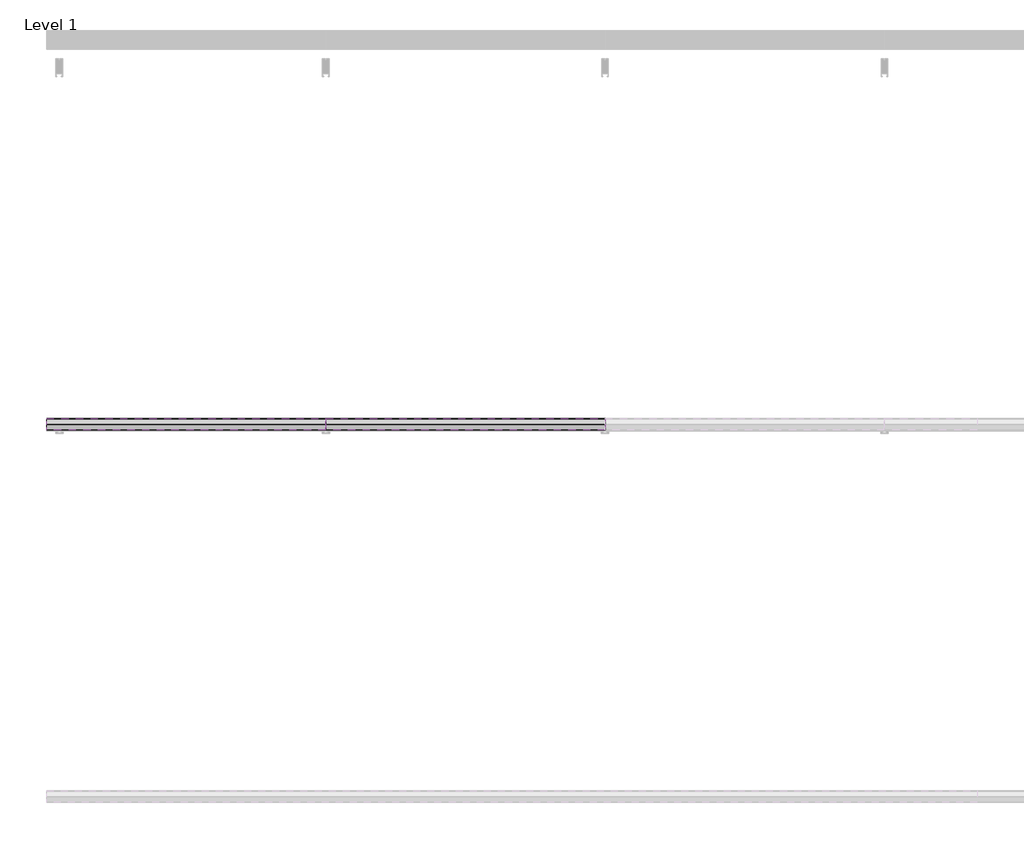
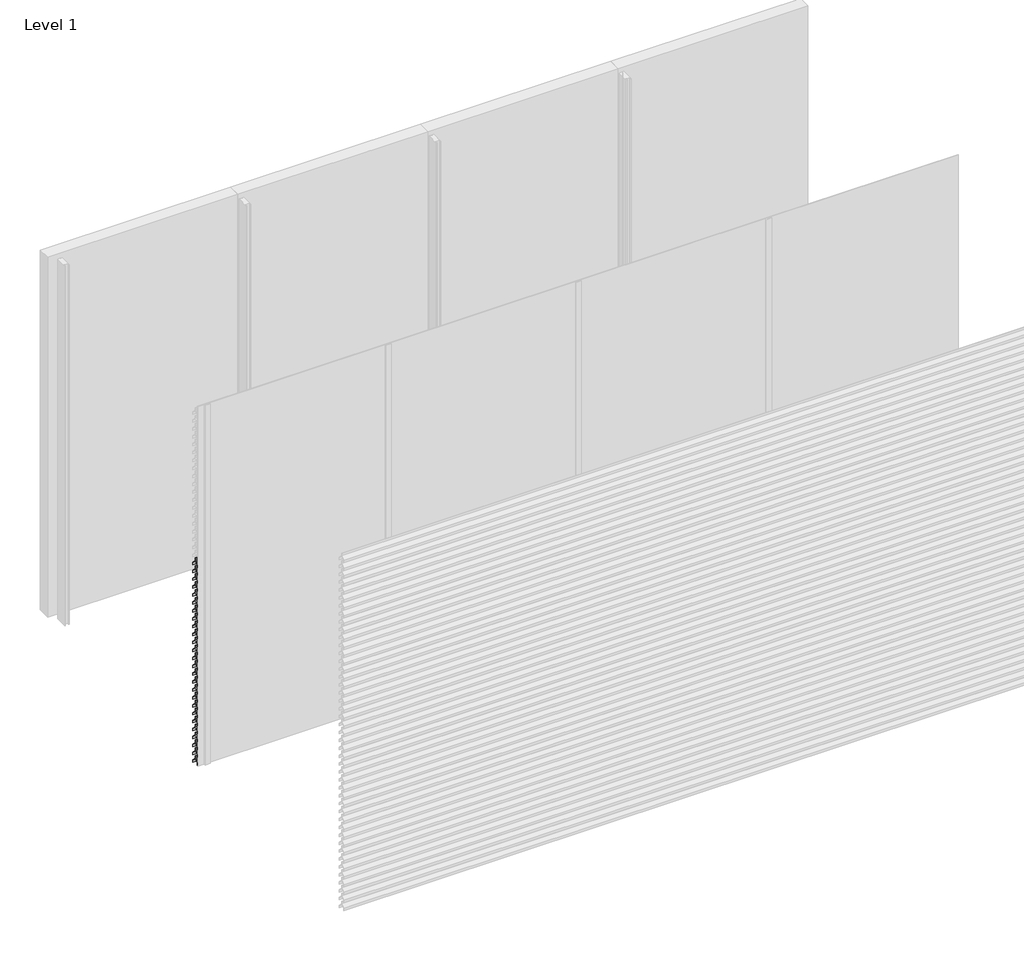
# One storey, part 20 of 35: 70 proxies.
"""IFC4 building model written with IfcOpenShell, lengths in millimetres."""

from ifc_helpers import new_model, si_unit, frame, origin, place, context, project, spatial, polyline, outline, extrude, element, save

model = new_model("IFC4")

# Units and contexts
model_context = context("Model", 3, world=origin())
ifc_project = project(units=[si_unit("LENGTHUNIT", "METRE", prefix="MILLI")], contexts=[model_context])

# Site, building, storey
site = spatial("IfcSite", under=ifc_project)
building = spatial("IfcBuilding", under=site)
storey = spatial("IfcBuildingStorey", under=building, Name="Level 1", Elevation=0.0)

# Proxies
placement = place(None, origin())
element("IfcBuildingElementProxy", 1, Name="Wall Sweeps", at=placement, inside=storey, context=model_context, shape_type="SweptSolid", body=[
    extrude(outline(polyline([(-23936.0, 1662.0), (-23936.0, 1642.0), (-23937.25, 1642.0), (-23937.25, 1661.4342979), (-23968.1138939, 1694.531772), (-23996.7, 1674.4392868), (-23996.7, 1655.6629874), (-23998.0, 1654.8506572), (-23998.0, 1675.1145472), (-23968.537525, 1695.823011), (-23968.537525, 1716.0), (-23967.1772624, 1716.0), (-23967.1772624, 1695.4335207), (-23936.0, 1662.0)])), frame((0.0, 0.0, 0.0), z_axis=(1.0, 0.0, 0.0), x_axis=(0.0, 1.0, 0.0)), (0.0, 0.0, 1.0), 1500.0),
])
element("IfcBuildingElementProxy", 2, Name="Wall Sweeps", at=placement, inside=storey, context=model_context, shape_type="SweptSolid", body=[
    extrude(outline(polyline([(-23936.0, 1596.0), (-23936.0, 1576.0), (-23937.25, 1576.0), (-23937.25, 1595.4342979), (-23968.1138939, 1628.531772), (-23996.7, 1608.4392868), (-23996.7, 1589.6629874), (-23998.0, 1588.8506572), (-23998.0, 1609.1145472), (-23968.537525, 1629.823011), (-23968.537525, 1650.0), (-23967.1772624, 1650.0), (-23967.1772624, 1629.4335207), (-23936.0, 1596.0)])), frame((0.0, 0.0, 0.0), z_axis=(1.0, 0.0, 0.0), x_axis=(0.0, 1.0, 0.0)), (0.0, 0.0, 1.0), 1500.0),
])
element("IfcBuildingElementProxy", 3, Name="Wall Sweeps", at=placement, inside=storey, context=model_context, shape_type="SweptSolid", body=[
    extrude(outline(polyline([(-23936.0, 1530.0), (-23936.0, 1510.0), (-23937.25, 1510.0), (-23937.25, 1529.4342979), (-23968.1138939, 1562.531772), (-23996.7, 1542.4392868), (-23996.7, 1523.6629874), (-23998.0, 1522.8506572), (-23998.0, 1543.1145472), (-23968.537525, 1563.823011), (-23968.537525, 1584.0), (-23967.1772624, 1584.0), (-23967.1772624, 1563.4335207), (-23936.0, 1530.0)])), frame((0.0, 0.0, 0.0), z_axis=(1.0, 0.0, 0.0), x_axis=(0.0, 1.0, 0.0)), (0.0, 0.0, 1.0), 1500.0),
])
element("IfcBuildingElementProxy", 4, Name="Wall Sweeps", at=placement, inside=storey, context=model_context, shape_type="SweptSolid", body=[
    extrude(outline(polyline([(-23936.0, 1464.0), (-23936.0, 1444.0), (-23937.25, 1444.0), (-23937.25, 1463.4342979), (-23968.1138939, 1496.531772), (-23996.7, 1476.4392868), (-23996.7, 1457.6629874), (-23998.0, 1456.8506572), (-23998.0, 1477.1145472), (-23968.537525, 1497.823011), (-23968.537525, 1518.0), (-23967.1772624, 1518.0), (-23967.1772624, 1497.4335207), (-23936.0, 1464.0)])), frame((0.0, 0.0, 0.0), z_axis=(1.0, 0.0, 0.0), x_axis=(0.0, 1.0, 0.0)), (0.0, 0.0, 1.0), 1500.0),
])
element("IfcBuildingElementProxy", 5, Name="Wall Sweeps", at=placement, inside=storey, context=model_context, shape_type="SweptSolid", body=[
    extrude(outline(polyline([(-23936.0, 1398.0), (-23936.0, 1378.0), (-23937.25, 1378.0), (-23937.25, 1397.4342979), (-23968.1138939, 1430.531772), (-23996.7, 1410.4392868), (-23996.7, 1391.6629874), (-23998.0, 1390.8506572), (-23998.0, 1411.1145472), (-23968.537525, 1431.823011), (-23968.537525, 1452.0), (-23967.1772624, 1452.0), (-23967.1772624, 1431.4335207), (-23936.0, 1398.0)])), frame((0.0, 0.0, 0.0), z_axis=(1.0, 0.0, 0.0), x_axis=(0.0, 1.0, 0.0)), (0.0, 0.0, 1.0), 1500.0),
])
element("IfcBuildingElementProxy", 6, Name="Wall Sweeps", at=placement, inside=storey, context=model_context, shape_type="SweptSolid", body=[
    extrude(outline(polyline([(-23936.0, 1332.0), (-23936.0, 1312.0), (-23937.25, 1312.0), (-23937.25, 1331.4342979), (-23968.1138939, 1364.531772), (-23996.7, 1344.4392868), (-23996.7, 1325.6629874), (-23998.0, 1324.8506572), (-23998.0, 1345.1145472), (-23968.537525, 1365.823011), (-23968.537525, 1386.0), (-23967.1772624, 1386.0), (-23967.1772624, 1365.4335207), (-23936.0, 1332.0)])), frame((0.0, 0.0, 0.0), z_axis=(1.0, 0.0, 0.0), x_axis=(0.0, 1.0, 0.0)), (0.0, 0.0, 1.0), 1500.0),
])
element("IfcBuildingElementProxy", 7, Name="Wall Sweeps", at=placement, inside=storey, context=model_context, shape_type="SweptSolid", body=[
    extrude(outline(polyline([(-23936.0, 1266.0), (-23936.0, 1246.0), (-23937.25, 1246.0), (-23937.25, 1265.4342979), (-23968.1138939, 1298.531772), (-23996.7, 1278.4392868), (-23996.7, 1259.6629874), (-23998.0, 1258.8506572), (-23998.0, 1279.1145472), (-23968.537525, 1299.823011), (-23968.537525, 1320.0), (-23967.1772624, 1320.0), (-23967.1772624, 1299.4335207), (-23936.0, 1266.0)])), frame((0.0, 0.0, 0.0), z_axis=(1.0, 0.0, 0.0), x_axis=(0.0, 1.0, 0.0)), (0.0, 0.0, 1.0), 1500.0),
])
element("IfcBuildingElementProxy", 8, Name="Wall Sweeps", at=placement, inside=storey, context=model_context, shape_type="SweptSolid", body=[
    extrude(outline(polyline([(-23936.0, 1200.0), (-23936.0, 1180.0), (-23937.25, 1180.0), (-23937.25, 1199.4342979), (-23968.1138939, 1232.531772), (-23996.7, 1212.4392868), (-23996.7, 1193.6629874), (-23998.0, 1192.8506572), (-23998.0, 1213.1145472), (-23968.537525, 1233.823011), (-23968.537525, 1254.0), (-23967.1772624, 1254.0), (-23967.1772624, 1233.4335207), (-23936.0, 1200.0)])), frame((0.0, 0.0, 0.0), z_axis=(1.0, 0.0, 0.0), x_axis=(0.0, 1.0, 0.0)), (0.0, 0.0, 1.0), 1500.0),
])
element("IfcBuildingElementProxy", 9, Name="Wall Sweeps", at=placement, inside=storey, context=model_context, shape_type="SweptSolid", body=[
    extrude(outline(polyline([(-23936.0, 1134.0), (-23936.0, 1114.0), (-23937.25, 1114.0), (-23937.25, 1133.4342979), (-23968.1138939, 1166.531772), (-23996.7, 1146.4392868), (-23996.7, 1127.6629874), (-23998.0, 1126.8506572), (-23998.0, 1147.1145472), (-23968.537525, 1167.823011), (-23968.537525, 1188.0), (-23967.1772624, 1188.0), (-23967.1772624, 1167.4335207), (-23936.0, 1134.0)])), frame((0.0, 0.0, 0.0), z_axis=(1.0, 0.0, 0.0), x_axis=(0.0, 1.0, 0.0)), (0.0, 0.0, 1.0), 1500.0),
])
element("IfcBuildingElementProxy", 10, Name="Wall Sweeps", at=placement, inside=storey, context=model_context, shape_type="SweptSolid", body=[
    extrude(outline(polyline([(-23936.0, 1068.0), (-23936.0, 1048.0), (-23937.25, 1048.0), (-23937.25, 1067.4342979), (-23968.1138939, 1100.531772), (-23996.7, 1080.4392868), (-23996.7, 1061.6629874), (-23998.0, 1060.8506572), (-23998.0, 1081.1145472), (-23968.537525, 1101.823011), (-23968.537525, 1122.0), (-23967.1772624, 1122.0), (-23967.1772624, 1101.4335207), (-23936.0, 1068.0)])), frame((0.0, 0.0, 0.0), z_axis=(1.0, 0.0, 0.0), x_axis=(0.0, 1.0, 0.0)), (0.0, 0.0, 1.0), 1500.0),
])
element("IfcBuildingElementProxy", 11, Name="Wall Sweeps", at=placement, inside=storey, context=model_context, shape_type="SweptSolid", body=[
    extrude(outline(polyline([(-23936.0, 1002.0), (-23936.0, 982.0), (-23937.25, 982.0), (-23937.25, 1001.4342979), (-23968.1138939, 1034.531772), (-23996.7, 1014.4392868), (-23996.7, 995.6629874), (-23998.0, 994.8506572), (-23998.0, 1015.1145472), (-23968.537525, 1035.823011), (-23968.537525, 1056.0), (-23967.1772624, 1056.0), (-23967.1772624, 1035.4335207), (-23936.0, 1002.0)])), frame((0.0, 0.0, 0.0), z_axis=(1.0, 0.0, 0.0), x_axis=(0.0, 1.0, 0.0)), (0.0, 0.0, 1.0), 1500.0),
])
element("IfcBuildingElementProxy", 12, Name="Wall Sweeps", at=placement, inside=storey, context=model_context, shape_type="SweptSolid", body=[
    extrude(outline(polyline([(-23936.0, 936.0), (-23936.0, 916.0), (-23937.25, 916.0), (-23937.25, 935.4342979), (-23968.1138939, 968.531772), (-23996.7, 948.4392868), (-23996.7, 929.6629874), (-23998.0, 928.8506572), (-23998.0, 949.1145472), (-23968.537525, 969.823011), (-23968.537525, 990.0), (-23967.1772624, 990.0), (-23967.1772624, 969.4335207), (-23936.0, 936.0)])), frame((0.0, 0.0, 0.0), z_axis=(1.0, 0.0, 0.0), x_axis=(0.0, 1.0, 0.0)), (0.0, 0.0, 1.0), 1500.0),
])
element("IfcBuildingElementProxy", 13, Name="Wall Sweeps", at=placement, inside=storey, context=model_context, shape_type="SweptSolid", body=[
    extrude(outline(polyline([(-23936.0, 870.0), (-23936.0, 850.0), (-23937.25, 850.0), (-23937.25, 869.4342979), (-23968.1138939, 902.531772), (-23996.7, 882.4392868), (-23996.7, 863.6629874), (-23998.0, 862.8506572), (-23998.0, 883.1145472), (-23968.537525, 903.823011), (-23968.537525, 924.0), (-23967.1772624, 924.0), (-23967.1772624, 903.4335207), (-23936.0, 870.0)])), frame((0.0, 0.0, 0.0), z_axis=(1.0, 0.0, 0.0), x_axis=(0.0, 1.0, 0.0)), (0.0, 0.0, 1.0), 1500.0),
])
element("IfcBuildingElementProxy", 14, Name="Wall Sweeps", at=placement, inside=storey, context=model_context, shape_type="SweptSolid", body=[
    extrude(outline(polyline([(-23936.0, 804.0), (-23936.0, 784.0), (-23937.25, 784.0), (-23937.25, 803.4342979), (-23968.1138939, 836.531772), (-23996.7, 816.4392868), (-23996.7, 797.6629874), (-23998.0, 796.8506572), (-23998.0, 817.1145472), (-23968.537525, 837.823011), (-23968.537525, 858.0), (-23967.1772624, 858.0), (-23967.1772624, 837.4335207), (-23936.0, 804.0)])), frame((0.0, 0.0, 0.0), z_axis=(1.0, 0.0, 0.0), x_axis=(0.0, 1.0, 0.0)), (0.0, 0.0, 1.0), 1500.0),
])
element("IfcBuildingElementProxy", 15, Name="Wall Sweeps", at=placement, inside=storey, context=model_context, shape_type="SweptSolid", body=[
    extrude(outline(polyline([(-23936.0, 738.0), (-23936.0, 718.0), (-23937.25, 718.0), (-23937.25, 737.4342979), (-23968.1138939, 770.531772), (-23996.7, 750.4392868), (-23996.7, 731.6629874), (-23998.0, 730.8506572), (-23998.0, 751.1145472), (-23968.537525, 771.823011), (-23968.537525, 792.0), (-23967.1772624, 792.0), (-23967.1772624, 771.4335207), (-23936.0, 738.0)])), frame((0.0, 0.0, 0.0), z_axis=(1.0, 0.0, 0.0), x_axis=(0.0, 1.0, 0.0)), (0.0, 0.0, 1.0), 1500.0),
])
element("IfcBuildingElementProxy", 16, Name="Wall Sweeps", at=placement, inside=storey, context=model_context, shape_type="SweptSolid", body=[
    extrude(outline(polyline([(-23936.0, 672.0), (-23936.0, 652.0), (-23937.25, 652.0), (-23937.25, 671.4342979), (-23968.1138939, 704.531772), (-23996.7, 684.4392868), (-23996.7, 665.6629874), (-23998.0, 664.8506572), (-23998.0, 685.1145472), (-23968.537525, 705.823011), (-23968.537525, 726.0), (-23967.1772624, 726.0), (-23967.1772624, 705.4335207), (-23936.0, 672.0)])), frame((0.0, 0.0, 0.0), z_axis=(1.0, 0.0, 0.0), x_axis=(0.0, 1.0, 0.0)), (0.0, 0.0, 1.0), 1500.0),
])
element("IfcBuildingElementProxy", 17, Name="Wall Sweeps", at=placement, inside=storey, context=model_context, shape_type="SweptSolid", body=[
    extrude(outline(polyline([(-23936.0, 606.0), (-23936.0, 586.0), (-23937.25, 586.0), (-23937.25, 605.4342979), (-23968.1138939, 638.531772), (-23996.7, 618.4392868), (-23996.7, 599.6629874), (-23998.0, 598.8506572), (-23998.0, 619.1145472), (-23968.537525, 639.823011), (-23968.537525, 660.0), (-23967.1772624, 660.0), (-23967.1772624, 639.4335207), (-23936.0, 606.0)])), frame((0.0, 0.0, 0.0), z_axis=(1.0, 0.0, 0.0), x_axis=(0.0, 1.0, 0.0)), (0.0, 0.0, 1.0), 1500.0),
])
element("IfcBuildingElementProxy", 18, Name="Wall Sweeps", at=placement, inside=storey, context=model_context, shape_type="SweptSolid", body=[
    extrude(outline(polyline([(-23936.0, 540.0), (-23936.0, 520.0), (-23937.25, 520.0), (-23937.25, 539.4342979), (-23968.1138939, 572.531772), (-23996.7, 552.4392868), (-23996.7, 533.6629874), (-23998.0, 532.8506572), (-23998.0, 553.1145472), (-23968.537525, 573.823011), (-23968.537525, 594.0), (-23967.1772624, 594.0), (-23967.1772624, 573.4335207), (-23936.0, 540.0)])), frame((0.0, 0.0, 0.0), z_axis=(1.0, 0.0, 0.0), x_axis=(0.0, 1.0, 0.0)), (0.0, 0.0, 1.0), 1500.0),
])
element("IfcBuildingElementProxy", 19, Name="Wall Sweeps", at=placement, inside=storey, context=model_context, shape_type="SweptSolid", body=[
    extrude(outline(polyline([(-23936.0, 474.0), (-23936.0, 454.0), (-23937.25, 454.0), (-23937.25, 473.4342979), (-23968.1138939, 506.531772), (-23996.7, 486.4392868), (-23996.7, 467.6629874), (-23998.0, 466.8506572), (-23998.0, 487.1145472), (-23968.537525, 507.823011), (-23968.537525, 528.0), (-23967.1772624, 528.0), (-23967.1772624, 507.4335207), (-23936.0, 474.0)])), frame((0.0, 0.0, 0.0), z_axis=(1.0, 0.0, 0.0), x_axis=(0.0, 1.0, 0.0)), (0.0, 0.0, 1.0), 1500.0),
])
element("IfcBuildingElementProxy", 20, Name="Wall Sweeps", at=placement, inside=storey, context=model_context, shape_type="SweptSolid", body=[
    extrude(outline(polyline([(-23936.0, 408.0), (-23936.0, 388.0), (-23937.25, 388.0), (-23937.25, 407.4342979), (-23968.1138939, 440.531772), (-23996.7, 420.4392868), (-23996.7, 401.6629874), (-23998.0, 400.8506572), (-23998.0, 421.1145472), (-23968.537525, 441.823011), (-23968.537525, 462.0), (-23967.1772624, 462.0), (-23967.1772624, 441.4335207), (-23936.0, 408.0)])), frame((0.0, 0.0, 0.0), z_axis=(1.0, 0.0, 0.0), x_axis=(0.0, 1.0, 0.0)), (0.0, 0.0, 1.0), 1500.0),
])
element("IfcBuildingElementProxy", 21, Name="Wall Sweeps", at=placement, inside=storey, context=model_context, shape_type="SweptSolid", body=[
    extrude(outline(polyline([(-23936.0, 342.0), (-23936.0, 322.0), (-23937.25, 322.0), (-23937.25, 341.4342979), (-23968.1138939, 374.531772), (-23996.7, 354.4392868), (-23996.7, 335.6629874), (-23998.0, 334.8506572), (-23998.0, 355.1145472), (-23968.537525, 375.823011), (-23968.537525, 396.0), (-23967.1772624, 396.0), (-23967.1772624, 375.4335207), (-23936.0, 342.0)])), frame((0.0, 0.0, 0.0), z_axis=(1.0, 0.0, 0.0), x_axis=(0.0, 1.0, 0.0)), (0.0, 0.0, 1.0), 1500.0),
])
element("IfcBuildingElementProxy", 22, Name="Wall Sweeps", at=placement, inside=storey, context=model_context, shape_type="SweptSolid", body=[
    extrude(outline(polyline([(-23936.0, 276.0), (-23936.0, 256.0), (-23937.25, 256.0), (-23937.25, 275.4342979), (-23968.1138939, 308.531772), (-23996.7, 288.4392868), (-23996.7, 269.6629874), (-23998.0, 268.8506572), (-23998.0, 289.1145472), (-23968.537525, 309.823011), (-23968.537525, 330.0), (-23967.1772624, 330.0), (-23967.1772624, 309.4335207), (-23936.0, 276.0)])), frame((0.0, 0.0, 0.0), z_axis=(1.0, 0.0, 0.0), x_axis=(0.0, 1.0, 0.0)), (0.0, 0.0, 1.0), 1500.0),
])
element("IfcBuildingElementProxy", 23, Name="Wall Sweeps", at=placement, inside=storey, context=model_context, shape_type="SweptSolid", body=[
    extrude(outline(polyline([(-23936.0, 210.0), (-23936.0, 190.0), (-23937.25, 190.0), (-23937.25, 209.4342979), (-23968.1138939, 242.531772), (-23996.7, 222.4392868), (-23996.7, 203.6629874), (-23998.0, 202.8506572), (-23998.0, 223.1145472), (-23968.537525, 243.823011), (-23968.537525, 264.0), (-23967.1772624, 264.0), (-23967.1772624, 243.4335207), (-23936.0, 210.0)])), frame((0.0, 0.0, 0.0), z_axis=(1.0, 0.0, 0.0), x_axis=(0.0, 1.0, 0.0)), (0.0, 0.0, 1.0), 1500.0),
])
element("IfcBuildingElementProxy", 24, Name="Wall Sweeps", at=placement, inside=storey, context=model_context, shape_type="SweptSolid", body=[
    extrude(outline(polyline([(-23936.0, 144.0), (-23936.0, 124.0), (-23937.25, 124.0), (-23937.25, 143.4342979), (-23968.1138939, 176.531772), (-23996.7, 156.4392868), (-23996.7, 137.6629874), (-23998.0, 136.8506572), (-23998.0, 157.1145472), (-23968.537525, 177.823011), (-23968.537525, 198.0), (-23967.1772624, 198.0), (-23967.1772624, 177.4335207), (-23936.0, 144.0)])), frame((0.0, 0.0, 0.0), z_axis=(1.0, 0.0, 0.0), x_axis=(0.0, 1.0, 0.0)), (0.0, 0.0, 1.0), 1500.0),
])
element("IfcBuildingElementProxy", 25, Name="Wall Sweeps", at=placement, inside=storey, context=model_context, shape_type="SweptSolid", body=[
    extrude(outline(polyline([(-23936.0, 78.0), (-23936.0, 58.0), (-23937.25, 58.0), (-23937.25, 77.4342979), (-23968.1138939, 110.531772), (-23996.7, 90.4392868), (-23996.7, 71.6629874), (-23998.0, 70.8506572), (-23998.0, 91.1145472), (-23968.537525, 111.823011), (-23968.537525, 132.0), (-23967.1772624, 132.0), (-23967.1772624, 111.4335207), (-23936.0, 78.0)])), frame((0.0, 0.0, 0.0), z_axis=(1.0, 0.0, 0.0), x_axis=(0.0, 1.0, 0.0)), (0.0, 0.0, 1.0), 1500.0),
])
element("IfcBuildingElementProxy", 26, Name="Wall Sweeps", at=placement, inside=storey, context=model_context, shape_type="SweptSolid", body=[
    extrude(outline(polyline([(-23936.0, 12.0), (-23936.0, -8.0), (-23937.25, -8.0), (-23937.25, 11.4342979), (-23968.1138939, 44.531772), (-23996.7, 24.4392868), (-23996.7, 5.6629874), (-23998.0, 4.8506572), (-23998.0, 25.1145472), (-23968.537525, 45.823011), (-23968.537525, 66.0), (-23967.1772624, 66.0), (-23967.1772624, 45.4335207), (-23936.0, 12.0)])), frame((0.0, 0.0, 0.0), z_axis=(1.0, 0.0, 0.0), x_axis=(0.0, 1.0, 0.0)), (0.0, 0.0, 1.0), 1500.0),
])
element("IfcBuildingElementProxy", 27, Name="Wall Sweeps", at=placement, inside=storey, context=model_context, shape_type="SweptSolid", body=[
    extrude(outline(polyline([(-23936.0, 2916.0), (-23936.0, 2896.0), (-23937.25, 2896.0), (-23937.25, 2915.4342979), (-23968.1138939, 2948.531772), (-23996.7, 2928.4392868), (-23996.7, 2909.6629874), (-23998.0, 2908.8506572), (-23998.0, 2929.1145472), (-23968.537525, 2949.823011), (-23968.537525, 2970.0), (-23967.1772624, 2970.0), (-23967.1772624, 2949.4335207), (-23936.0, 2916.0)])), frame((1500.0, 0.0, 0.0), z_axis=(1.0, 0.0, 0.0), x_axis=(0.0, 1.0, 0.0)), (0.0, 0.0, 1.0), 1500.0),
])
element("IfcBuildingElementProxy", 28, Name="Wall Sweeps", at=placement, inside=storey, context=model_context, shape_type="SweptSolid", body=[
    extrude(outline(polyline([(-23936.0, 2850.0), (-23936.0, 2830.0), (-23937.25, 2830.0), (-23937.25, 2849.4342979), (-23968.1138939, 2882.531772), (-23996.7, 2862.4392868), (-23996.7, 2843.6629874), (-23998.0, 2842.8506572), (-23998.0, 2863.1145472), (-23968.537525, 2883.823011), (-23968.537525, 2904.0), (-23967.1772624, 2904.0), (-23967.1772624, 2883.4335207), (-23936.0, 2850.0)])), frame((1500.0, 0.0, 0.0), z_axis=(1.0, 0.0, 0.0), x_axis=(0.0, 1.0, 0.0)), (0.0, 0.0, 1.0), 1500.0),
])
element("IfcBuildingElementProxy", 29, Name="Wall Sweeps", at=placement, inside=storey, context=model_context, shape_type="SweptSolid", body=[
    extrude(outline(polyline([(-23936.0, 2784.0), (-23936.0, 2764.0), (-23937.25, 2764.0), (-23937.25, 2783.4342979), (-23968.1138939, 2816.531772), (-23996.7, 2796.4392868), (-23996.7, 2777.6629874), (-23998.0, 2776.8506572), (-23998.0, 2797.1145472), (-23968.537525, 2817.823011), (-23968.537525, 2838.0), (-23967.1772624, 2838.0), (-23967.1772624, 2817.4335207), (-23936.0, 2784.0)])), frame((1500.0, 0.0, 0.0), z_axis=(1.0, 0.0, 0.0), x_axis=(0.0, 1.0, 0.0)), (0.0, 0.0, 1.0), 1500.0),
])
element("IfcBuildingElementProxy", 30, Name="Wall Sweeps", at=placement, inside=storey, context=model_context, shape_type="SweptSolid", body=[
    extrude(outline(polyline([(-23936.0, 2718.0), (-23936.0, 2698.0), (-23937.25, 2698.0), (-23937.25, 2717.4342979), (-23968.1138939, 2750.531772), (-23996.7, 2730.4392868), (-23996.7, 2711.6629874), (-23998.0, 2710.8506572), (-23998.0, 2731.1145472), (-23968.537525, 2751.823011), (-23968.537525, 2772.0), (-23967.1772624, 2772.0), (-23967.1772624, 2751.4335207), (-23936.0, 2718.0)])), frame((1500.0, 0.0, 0.0), z_axis=(1.0, 0.0, 0.0), x_axis=(0.0, 1.0, 0.0)), (0.0, 0.0, 1.0), 1500.0),
])
element("IfcBuildingElementProxy", 31, Name="Wall Sweeps", at=placement, inside=storey, context=model_context, shape_type="SweptSolid", body=[
    extrude(outline(polyline([(-23936.0, 2652.0), (-23936.0, 2632.0), (-23937.25, 2632.0), (-23937.25, 2651.4342979), (-23968.1138939, 2684.531772), (-23996.7, 2664.4392868), (-23996.7, 2645.6629874), (-23998.0, 2644.8506572), (-23998.0, 2665.1145472), (-23968.537525, 2685.823011), (-23968.537525, 2706.0), (-23967.1772624, 2706.0), (-23967.1772624, 2685.4335207), (-23936.0, 2652.0)])), frame((1500.0, 0.0, 0.0), z_axis=(1.0, 0.0, 0.0), x_axis=(0.0, 1.0, 0.0)), (0.0, 0.0, 1.0), 1500.0),
])
element("IfcBuildingElementProxy", 32, Name="Wall Sweeps", at=placement, inside=storey, context=model_context, shape_type="SweptSolid", body=[
    extrude(outline(polyline([(-23936.0, 2586.0), (-23936.0, 2566.0), (-23937.25, 2566.0), (-23937.25, 2585.4342979), (-23968.1138939, 2618.531772), (-23996.7, 2598.4392868), (-23996.7, 2579.6629874), (-23998.0, 2578.8506572), (-23998.0, 2599.1145472), (-23968.537525, 2619.823011), (-23968.537525, 2640.0), (-23967.1772624, 2640.0), (-23967.1772624, 2619.4335207), (-23936.0, 2586.0)])), frame((1500.0, 0.0, 0.0), z_axis=(1.0, 0.0, 0.0), x_axis=(0.0, 1.0, 0.0)), (0.0, 0.0, 1.0), 1500.0),
])
element("IfcBuildingElementProxy", 33, Name="Wall Sweeps", at=placement, inside=storey, context=model_context, shape_type="SweptSolid", body=[
    extrude(outline(polyline([(-23936.0, 2520.0), (-23936.0, 2500.0), (-23937.25, 2500.0), (-23937.25, 2519.4342979), (-23968.1138939, 2552.531772), (-23996.7, 2532.4392868), (-23996.7, 2513.6629874), (-23998.0, 2512.8506572), (-23998.0, 2533.1145472), (-23968.537525, 2553.823011), (-23968.537525, 2574.0), (-23967.1772624, 2574.0), (-23967.1772624, 2553.4335207), (-23936.0, 2520.0)])), frame((1500.0, 0.0, 0.0), z_axis=(1.0, 0.0, 0.0), x_axis=(0.0, 1.0, 0.0)), (0.0, 0.0, 1.0), 1500.0),
])
element("IfcBuildingElementProxy", 34, Name="Wall Sweeps", at=placement, inside=storey, context=model_context, shape_type="SweptSolid", body=[
    extrude(outline(polyline([(-23936.0, 2454.0), (-23936.0, 2434.0), (-23937.25, 2434.0), (-23937.25, 2453.4342979), (-23968.1138939, 2486.531772), (-23996.7, 2466.4392868), (-23996.7, 2447.6629874), (-23998.0, 2446.8506572), (-23998.0, 2467.1145472), (-23968.537525, 2487.823011), (-23968.537525, 2508.0), (-23967.1772624, 2508.0), (-23967.1772624, 2487.4335207), (-23936.0, 2454.0)])), frame((1500.0, 0.0, 0.0), z_axis=(1.0, 0.0, 0.0), x_axis=(0.0, 1.0, 0.0)), (0.0, 0.0, 1.0), 1500.0),
])
element("IfcBuildingElementProxy", 35, Name="Wall Sweeps", at=placement, inside=storey, context=model_context, shape_type="SweptSolid", body=[
    extrude(outline(polyline([(-23936.0, 2388.0), (-23936.0, 2368.0), (-23937.25, 2368.0), (-23937.25, 2387.4342979), (-23968.1138939, 2420.531772), (-23996.7, 2400.4392868), (-23996.7, 2381.6629874), (-23998.0, 2380.8506572), (-23998.0, 2401.1145472), (-23968.537525, 2421.823011), (-23968.537525, 2442.0), (-23967.1772624, 2442.0), (-23967.1772624, 2421.4335207), (-23936.0, 2388.0)])), frame((1500.0, 0.0, 0.0), z_axis=(1.0, 0.0, 0.0), x_axis=(0.0, 1.0, 0.0)), (0.0, 0.0, 1.0), 1500.0),
])
element("IfcBuildingElementProxy", 36, Name="Wall Sweeps", at=placement, inside=storey, context=model_context, shape_type="SweptSolid", body=[
    extrude(outline(polyline([(-23936.0, 2322.0), (-23936.0, 2302.0), (-23937.25, 2302.0), (-23937.25, 2321.4342979), (-23968.1138939, 2354.531772), (-23996.7, 2334.4392868), (-23996.7, 2315.6629874), (-23998.0, 2314.8506572), (-23998.0, 2335.1145472), (-23968.537525, 2355.823011), (-23968.537525, 2376.0), (-23967.1772624, 2376.0), (-23967.1772624, 2355.4335207), (-23936.0, 2322.0)])), frame((1500.0, 0.0, 0.0), z_axis=(1.0, 0.0, 0.0), x_axis=(0.0, 1.0, 0.0)), (0.0, 0.0, 1.0), 1500.0),
])
element("IfcBuildingElementProxy", 37, Name="Wall Sweeps", at=placement, inside=storey, context=model_context, shape_type="SweptSolid", body=[
    extrude(outline(polyline([(-23936.0, 2256.0), (-23936.0, 2236.0), (-23937.25, 2236.0), (-23937.25, 2255.4342979), (-23968.1138939, 2288.531772), (-23996.7, 2268.4392868), (-23996.7, 2249.6629874), (-23998.0, 2248.8506572), (-23998.0, 2269.1145472), (-23968.537525, 2289.823011), (-23968.537525, 2310.0), (-23967.1772624, 2310.0), (-23967.1772624, 2289.4335207), (-23936.0, 2256.0)])), frame((1500.0, 0.0, 0.0), z_axis=(1.0, 0.0, 0.0), x_axis=(0.0, 1.0, 0.0)), (0.0, 0.0, 1.0), 1500.0),
])
element("IfcBuildingElementProxy", 38, Name="Wall Sweeps", at=placement, inside=storey, context=model_context, shape_type="SweptSolid", body=[
    extrude(outline(polyline([(-23936.0, 2190.0), (-23936.0, 2170.0), (-23937.25, 2170.0), (-23937.25, 2189.4342979), (-23968.1138939, 2222.531772), (-23996.7, 2202.4392868), (-23996.7, 2183.6629874), (-23998.0, 2182.8506572), (-23998.0, 2203.1145472), (-23968.537525, 2223.823011), (-23968.537525, 2244.0), (-23967.1772624, 2244.0), (-23967.1772624, 2223.4335207), (-23936.0, 2190.0)])), frame((1500.0, 0.0, 0.0), z_axis=(1.0, 0.0, 0.0), x_axis=(0.0, 1.0, 0.0)), (0.0, 0.0, 1.0), 1500.0),
])
element("IfcBuildingElementProxy", 39, Name="Wall Sweeps", at=placement, inside=storey, context=model_context, shape_type="SweptSolid", body=[
    extrude(outline(polyline([(-23936.0, 2124.0), (-23936.0, 2104.0), (-23937.25, 2104.0), (-23937.25, 2123.4342979), (-23968.1138939, 2156.531772), (-23996.7, 2136.4392868), (-23996.7, 2117.6629874), (-23998.0, 2116.8506572), (-23998.0, 2137.1145472), (-23968.537525, 2157.823011), (-23968.537525, 2178.0), (-23967.1772624, 2178.0), (-23967.1772624, 2157.4335207), (-23936.0, 2124.0)])), frame((1500.0, 0.0, 0.0), z_axis=(1.0, 0.0, 0.0), x_axis=(0.0, 1.0, 0.0)), (0.0, 0.0, 1.0), 1500.0),
])
element("IfcBuildingElementProxy", 40, Name="Wall Sweeps", at=placement, inside=storey, context=model_context, shape_type="SweptSolid", body=[
    extrude(outline(polyline([(-23936.0, 2058.0), (-23936.0, 2038.0), (-23937.25, 2038.0), (-23937.25, 2057.4342979), (-23968.1138939, 2090.531772), (-23996.7, 2070.4392868), (-23996.7, 2051.6629874), (-23998.0, 2050.8506572), (-23998.0, 2071.1145472), (-23968.537525, 2091.823011), (-23968.537525, 2112.0), (-23967.1772624, 2112.0), (-23967.1772624, 2091.4335207), (-23936.0, 2058.0)])), frame((1500.0, 0.0, 0.0), z_axis=(1.0, 0.0, 0.0), x_axis=(0.0, 1.0, 0.0)), (0.0, 0.0, 1.0), 1500.0),
])
element("IfcBuildingElementProxy", 41, Name="Wall Sweeps", at=placement, inside=storey, context=model_context, shape_type="SweptSolid", body=[
    extrude(outline(polyline([(-23936.0, 1992.0), (-23936.0, 1972.0), (-23937.25, 1972.0), (-23937.25, 1991.4342979), (-23968.1138939, 2024.531772), (-23996.7, 2004.4392868), (-23996.7, 1985.6629874), (-23998.0, 1984.8506572), (-23998.0, 2005.1145472), (-23968.537525, 2025.823011), (-23968.537525, 2046.0), (-23967.1772624, 2046.0), (-23967.1772624, 2025.4335207), (-23936.0, 1992.0)])), frame((1500.0, 0.0, 0.0), z_axis=(1.0, 0.0, 0.0), x_axis=(0.0, 1.0, 0.0)), (0.0, 0.0, 1.0), 1500.0),
])
element("IfcBuildingElementProxy", 42, Name="Wall Sweeps", at=placement, inside=storey, context=model_context, shape_type="SweptSolid", body=[
    extrude(outline(polyline([(-23936.0, 1926.0), (-23936.0, 1906.0), (-23937.25, 1906.0), (-23937.25, 1925.4342979), (-23968.1138939, 1958.531772), (-23996.7, 1938.4392868), (-23996.7, 1919.6629874), (-23998.0, 1918.8506572), (-23998.0, 1939.1145472), (-23968.537525, 1959.823011), (-23968.537525, 1980.0), (-23967.1772624, 1980.0), (-23967.1772624, 1959.4335207), (-23936.0, 1926.0)])), frame((1500.0, 0.0, 0.0), z_axis=(1.0, 0.0, 0.0), x_axis=(0.0, 1.0, 0.0)), (0.0, 0.0, 1.0), 1500.0),
])
element("IfcBuildingElementProxy", 43, Name="Wall Sweeps", at=placement, inside=storey, context=model_context, shape_type="SweptSolid", body=[
    extrude(outline(polyline([(-23936.0, 1860.0), (-23936.0, 1840.0), (-23937.25, 1840.0), (-23937.25, 1859.4342979), (-23968.1138939, 1892.531772), (-23996.7, 1872.4392868), (-23996.7, 1853.6629874), (-23998.0, 1852.8506572), (-23998.0, 1873.1145472), (-23968.537525, 1893.823011), (-23968.537525, 1914.0), (-23967.1772624, 1914.0), (-23967.1772624, 1893.4335207), (-23936.0, 1860.0)])), frame((1500.0, 0.0, 0.0), z_axis=(1.0, 0.0, 0.0), x_axis=(0.0, 1.0, 0.0)), (0.0, 0.0, 1.0), 1500.0),
])
element("IfcBuildingElementProxy", 44, Name="Wall Sweeps", at=placement, inside=storey, context=model_context, shape_type="SweptSolid", body=[
    extrude(outline(polyline([(-23936.0, 1794.0), (-23936.0, 1774.0), (-23937.25, 1774.0), (-23937.25, 1793.4342979), (-23968.1138939, 1826.531772), (-23996.7, 1806.4392868), (-23996.7, 1787.6629874), (-23998.0, 1786.8506572), (-23998.0, 1807.1145472), (-23968.537525, 1827.823011), (-23968.537525, 1848.0), (-23967.1772624, 1848.0), (-23967.1772624, 1827.4335207), (-23936.0, 1794.0)])), frame((1500.0, 0.0, 0.0), z_axis=(1.0, 0.0, 0.0), x_axis=(0.0, 1.0, 0.0)), (0.0, 0.0, 1.0), 1500.0),
])
element("IfcBuildingElementProxy", 45, Name="Wall Sweeps", at=placement, inside=storey, context=model_context, shape_type="SweptSolid", body=[
    extrude(outline(polyline([(-23936.0, 1728.0), (-23936.0, 1708.0), (-23937.25, 1708.0), (-23937.25, 1727.4342979), (-23968.1138939, 1760.531772), (-23996.7, 1740.4392868), (-23996.7, 1721.6629874), (-23998.0, 1720.8506572), (-23998.0, 1741.1145472), (-23968.537525, 1761.823011), (-23968.537525, 1782.0), (-23967.1772624, 1782.0), (-23967.1772624, 1761.4335207), (-23936.0, 1728.0)])), frame((1500.0, 0.0, 0.0), z_axis=(1.0, 0.0, 0.0), x_axis=(0.0, 1.0, 0.0)), (0.0, 0.0, 1.0), 1500.0),
])
element("IfcBuildingElementProxy", 46, Name="Wall Sweeps", at=placement, inside=storey, context=model_context, shape_type="SweptSolid", body=[
    extrude(outline(polyline([(-23936.0, 1662.0), (-23936.0, 1642.0), (-23937.25, 1642.0), (-23937.25, 1661.4342979), (-23968.1138939, 1694.531772), (-23996.7, 1674.4392868), (-23996.7, 1655.6629874), (-23998.0, 1654.8506572), (-23998.0, 1675.1145472), (-23968.537525, 1695.823011), (-23968.537525, 1716.0), (-23967.1772624, 1716.0), (-23967.1772624, 1695.4335207), (-23936.0, 1662.0)])), frame((1500.0, 0.0, 0.0), z_axis=(1.0, 0.0, 0.0), x_axis=(0.0, 1.0, 0.0)), (0.0, 0.0, 1.0), 1500.0),
])
element("IfcBuildingElementProxy", 47, Name="Wall Sweeps", at=placement, inside=storey, context=model_context, shape_type="SweptSolid", body=[
    extrude(outline(polyline([(-23936.0, 1596.0), (-23936.0, 1576.0), (-23937.25, 1576.0), (-23937.25, 1595.4342979), (-23968.1138939, 1628.531772), (-23996.7, 1608.4392868), (-23996.7, 1589.6629874), (-23998.0, 1588.8506572), (-23998.0, 1609.1145472), (-23968.537525, 1629.823011), (-23968.537525, 1650.0), (-23967.1772624, 1650.0), (-23967.1772624, 1629.4335207), (-23936.0, 1596.0)])), frame((1500.0, 0.0, 0.0), z_axis=(1.0, 0.0, 0.0), x_axis=(0.0, 1.0, 0.0)), (0.0, 0.0, 1.0), 1500.0),
])
element("IfcBuildingElementProxy", 48, Name="Wall Sweeps", at=placement, inside=storey, context=model_context, shape_type="SweptSolid", body=[
    extrude(outline(polyline([(-23936.0, 1530.0), (-23936.0, 1510.0), (-23937.25, 1510.0), (-23937.25, 1529.4342979), (-23968.1138939, 1562.531772), (-23996.7, 1542.4392868), (-23996.7, 1523.6629874), (-23998.0, 1522.8506572), (-23998.0, 1543.1145472), (-23968.537525, 1563.823011), (-23968.537525, 1584.0), (-23967.1772624, 1584.0), (-23967.1772624, 1563.4335207), (-23936.0, 1530.0)])), frame((1500.0, 0.0, 0.0), z_axis=(1.0, 0.0, 0.0), x_axis=(0.0, 1.0, 0.0)), (0.0, 0.0, 1.0), 1500.0),
])
element("IfcBuildingElementProxy", 49, Name="Wall Sweeps", at=placement, inside=storey, context=model_context, shape_type="SweptSolid", body=[
    extrude(outline(polyline([(-23936.0, 1464.0), (-23936.0, 1444.0), (-23937.25, 1444.0), (-23937.25, 1463.4342979), (-23968.1138939, 1496.531772), (-23996.7, 1476.4392868), (-23996.7, 1457.6629874), (-23998.0, 1456.8506572), (-23998.0, 1477.1145472), (-23968.537525, 1497.823011), (-23968.537525, 1518.0), (-23967.1772624, 1518.0), (-23967.1772624, 1497.4335207), (-23936.0, 1464.0)])), frame((1500.0, 0.0, 0.0), z_axis=(1.0, 0.0, 0.0), x_axis=(0.0, 1.0, 0.0)), (0.0, 0.0, 1.0), 1500.0),
])
element("IfcBuildingElementProxy", 50, Name="Wall Sweeps", at=placement, inside=storey, context=model_context, shape_type="SweptSolid", body=[
    extrude(outline(polyline([(-23936.0, 1398.0), (-23936.0, 1378.0), (-23937.25, 1378.0), (-23937.25, 1397.4342979), (-23968.1138939, 1430.531772), (-23996.7, 1410.4392868), (-23996.7, 1391.6629874), (-23998.0, 1390.8506572), (-23998.0, 1411.1145472), (-23968.537525, 1431.823011), (-23968.537525, 1452.0), (-23967.1772624, 1452.0), (-23967.1772624, 1431.4335207), (-23936.0, 1398.0)])), frame((1500.0, 0.0, 0.0), z_axis=(1.0, 0.0, 0.0), x_axis=(0.0, 1.0, 0.0)), (0.0, 0.0, 1.0), 1500.0),
])
element("IfcBuildingElementProxy", 51, Name="Wall Sweeps", at=placement, inside=storey, context=model_context, shape_type="SweptSolid", body=[
    extrude(outline(polyline([(-23936.0, 1332.0), (-23936.0, 1312.0), (-23937.25, 1312.0), (-23937.25, 1331.4342979), (-23968.1138939, 1364.531772), (-23996.7, 1344.4392868), (-23996.7, 1325.6629874), (-23998.0, 1324.8506572), (-23998.0, 1345.1145472), (-23968.537525, 1365.823011), (-23968.537525, 1386.0), (-23967.1772624, 1386.0), (-23967.1772624, 1365.4335207), (-23936.0, 1332.0)])), frame((1500.0, 0.0, 0.0), z_axis=(1.0, 0.0, 0.0), x_axis=(0.0, 1.0, 0.0)), (0.0, 0.0, 1.0), 1500.0),
])
element("IfcBuildingElementProxy", 52, Name="Wall Sweeps", at=placement, inside=storey, context=model_context, shape_type="SweptSolid", body=[
    extrude(outline(polyline([(-23936.0, 1266.0), (-23936.0, 1246.0), (-23937.25, 1246.0), (-23937.25, 1265.4342979), (-23968.1138939, 1298.531772), (-23996.7, 1278.4392868), (-23996.7, 1259.6629874), (-23998.0, 1258.8506572), (-23998.0, 1279.1145472), (-23968.537525, 1299.823011), (-23968.537525, 1320.0), (-23967.1772624, 1320.0), (-23967.1772624, 1299.4335207), (-23936.0, 1266.0)])), frame((1500.0, 0.0, 0.0), z_axis=(1.0, 0.0, 0.0), x_axis=(0.0, 1.0, 0.0)), (0.0, 0.0, 1.0), 1500.0),
])
element("IfcBuildingElementProxy", 53, Name="Wall Sweeps", at=placement, inside=storey, context=model_context, shape_type="SweptSolid", body=[
    extrude(outline(polyline([(-23936.0, 1200.0), (-23936.0, 1180.0), (-23937.25, 1180.0), (-23937.25, 1199.4342979), (-23968.1138939, 1232.531772), (-23996.7, 1212.4392868), (-23996.7, 1193.6629874), (-23998.0, 1192.8506572), (-23998.0, 1213.1145472), (-23968.537525, 1233.823011), (-23968.537525, 1254.0), (-23967.1772624, 1254.0), (-23967.1772624, 1233.4335207), (-23936.0, 1200.0)])), frame((1500.0, 0.0, 0.0), z_axis=(1.0, 0.0, 0.0), x_axis=(0.0, 1.0, 0.0)), (0.0, 0.0, 1.0), 1500.0),
])
element("IfcBuildingElementProxy", 54, Name="Wall Sweeps", at=placement, inside=storey, context=model_context, shape_type="SweptSolid", body=[
    extrude(outline(polyline([(-23936.0, 1134.0), (-23936.0, 1114.0), (-23937.25, 1114.0), (-23937.25, 1133.4342979), (-23968.1138939, 1166.531772), (-23996.7, 1146.4392868), (-23996.7, 1127.6629874), (-23998.0, 1126.8506572), (-23998.0, 1147.1145472), (-23968.537525, 1167.823011), (-23968.537525, 1188.0), (-23967.1772624, 1188.0), (-23967.1772624, 1167.4335207), (-23936.0, 1134.0)])), frame((1500.0, 0.0, 0.0), z_axis=(1.0, 0.0, 0.0), x_axis=(0.0, 1.0, 0.0)), (0.0, 0.0, 1.0), 1500.0),
])
element("IfcBuildingElementProxy", 55, Name="Wall Sweeps", at=placement, inside=storey, context=model_context, shape_type="SweptSolid", body=[
    extrude(outline(polyline([(-23936.0, 1068.0), (-23936.0, 1048.0), (-23937.25, 1048.0), (-23937.25, 1067.4342979), (-23968.1138939, 1100.531772), (-23996.7, 1080.4392868), (-23996.7, 1061.6629874), (-23998.0, 1060.8506572), (-23998.0, 1081.1145472), (-23968.537525, 1101.823011), (-23968.537525, 1122.0), (-23967.1772624, 1122.0), (-23967.1772624, 1101.4335207), (-23936.0, 1068.0)])), frame((1500.0, 0.0, 0.0), z_axis=(1.0, 0.0, 0.0), x_axis=(0.0, 1.0, 0.0)), (0.0, 0.0, 1.0), 1500.0),
])
element("IfcBuildingElementProxy", 56, Name="Wall Sweeps", at=placement, inside=storey, context=model_context, shape_type="SweptSolid", body=[
    extrude(outline(polyline([(-23936.0, 1002.0), (-23936.0, 982.0), (-23937.25, 982.0), (-23937.25, 1001.4342979), (-23968.1138939, 1034.531772), (-23996.7, 1014.4392868), (-23996.7, 995.6629874), (-23998.0, 994.8506572), (-23998.0, 1015.1145472), (-23968.537525, 1035.823011), (-23968.537525, 1056.0), (-23967.1772624, 1056.0), (-23967.1772624, 1035.4335207), (-23936.0, 1002.0)])), frame((1500.0, 0.0, 0.0), z_axis=(1.0, 0.0, 0.0), x_axis=(0.0, 1.0, 0.0)), (0.0, 0.0, 1.0), 1500.0),
])
element("IfcBuildingElementProxy", 57, Name="Wall Sweeps", at=placement, inside=storey, context=model_context, shape_type="SweptSolid", body=[
    extrude(outline(polyline([(-23936.0, 936.0), (-23936.0, 916.0), (-23937.25, 916.0), (-23937.25, 935.4342979), (-23968.1138939, 968.531772), (-23996.7, 948.4392868), (-23996.7, 929.6629874), (-23998.0, 928.8506572), (-23998.0, 949.1145472), (-23968.537525, 969.823011), (-23968.537525, 990.0), (-23967.1772624, 990.0), (-23967.1772624, 969.4335207), (-23936.0, 936.0)])), frame((1500.0, 0.0, 0.0), z_axis=(1.0, 0.0, 0.0), x_axis=(0.0, 1.0, 0.0)), (0.0, 0.0, 1.0), 1500.0),
])
element("IfcBuildingElementProxy", 58, Name="Wall Sweeps", at=placement, inside=storey, context=model_context, shape_type="SweptSolid", body=[
    extrude(outline(polyline([(-23936.0, 870.0), (-23936.0, 850.0), (-23937.25, 850.0), (-23937.25, 869.4342979), (-23968.1138939, 902.531772), (-23996.7, 882.4392868), (-23996.7, 863.6629874), (-23998.0, 862.8506572), (-23998.0, 883.1145472), (-23968.537525, 903.823011), (-23968.537525, 924.0), (-23967.1772624, 924.0), (-23967.1772624, 903.4335207), (-23936.0, 870.0)])), frame((1500.0, 0.0, 0.0), z_axis=(1.0, 0.0, 0.0), x_axis=(0.0, 1.0, 0.0)), (0.0, 0.0, 1.0), 1500.0),
])
element("IfcBuildingElementProxy", 59, Name="Wall Sweeps", at=placement, inside=storey, context=model_context, shape_type="SweptSolid", body=[
    extrude(outline(polyline([(-23936.0, 804.0), (-23936.0, 784.0), (-23937.25, 784.0), (-23937.25, 803.4342979), (-23968.1138939, 836.531772), (-23996.7, 816.4392868), (-23996.7, 797.6629874), (-23998.0, 796.8506572), (-23998.0, 817.1145472), (-23968.537525, 837.823011), (-23968.537525, 858.0), (-23967.1772624, 858.0), (-23967.1772624, 837.4335207), (-23936.0, 804.0)])), frame((1500.0, 0.0, 0.0), z_axis=(1.0, 0.0, 0.0), x_axis=(0.0, 1.0, 0.0)), (0.0, 0.0, 1.0), 1500.0),
])
element("IfcBuildingElementProxy", 60, Name="Wall Sweeps", at=placement, inside=storey, context=model_context, shape_type="SweptSolid", body=[
    extrude(outline(polyline([(-23936.0, 738.0), (-23936.0, 718.0), (-23937.25, 718.0), (-23937.25, 737.4342979), (-23968.1138939, 770.531772), (-23996.7, 750.4392868), (-23996.7, 731.6629874), (-23998.0, 730.8506572), (-23998.0, 751.1145472), (-23968.537525, 771.823011), (-23968.537525, 792.0), (-23967.1772624, 792.0), (-23967.1772624, 771.4335207), (-23936.0, 738.0)])), frame((1500.0, 0.0, 0.0), z_axis=(1.0, 0.0, 0.0), x_axis=(0.0, 1.0, 0.0)), (0.0, 0.0, 1.0), 1500.0),
])
element("IfcBuildingElementProxy", 61, Name="Wall Sweeps", at=placement, inside=storey, context=model_context, shape_type="SweptSolid", body=[
    extrude(outline(polyline([(-23936.0, 672.0), (-23936.0, 652.0), (-23937.25, 652.0), (-23937.25, 671.4342979), (-23968.1138939, 704.531772), (-23996.7, 684.4392868), (-23996.7, 665.6629874), (-23998.0, 664.8506572), (-23998.0, 685.1145472), (-23968.537525, 705.823011), (-23968.537525, 726.0), (-23967.1772624, 726.0), (-23967.1772624, 705.4335207), (-23936.0, 672.0)])), frame((1500.0, 0.0, 0.0), z_axis=(1.0, 0.0, 0.0), x_axis=(0.0, 1.0, 0.0)), (0.0, 0.0, 1.0), 1500.0),
])
element("IfcBuildingElementProxy", 62, Name="Wall Sweeps", at=placement, inside=storey, context=model_context, shape_type="SweptSolid", body=[
    extrude(outline(polyline([(-23936.0, 606.0), (-23936.0, 586.0), (-23937.25, 586.0), (-23937.25, 605.4342979), (-23968.1138939, 638.531772), (-23996.7, 618.4392868), (-23996.7, 599.6629874), (-23998.0, 598.8506572), (-23998.0, 619.1145472), (-23968.537525, 639.823011), (-23968.537525, 660.0), (-23967.1772624, 660.0), (-23967.1772624, 639.4335207), (-23936.0, 606.0)])), frame((1500.0, 0.0, 0.0), z_axis=(1.0, 0.0, 0.0), x_axis=(0.0, 1.0, 0.0)), (0.0, 0.0, 1.0), 1500.0),
])
element("IfcBuildingElementProxy", 63, Name="Wall Sweeps", at=placement, inside=storey, context=model_context, shape_type="SweptSolid", body=[
    extrude(outline(polyline([(-23936.0, 540.0), (-23936.0, 520.0), (-23937.25, 520.0), (-23937.25, 539.4342979), (-23968.1138939, 572.531772), (-23996.7, 552.4392868), (-23996.7, 533.6629874), (-23998.0, 532.8506572), (-23998.0, 553.1145472), (-23968.537525, 573.823011), (-23968.537525, 594.0), (-23967.1772624, 594.0), (-23967.1772624, 573.4335207), (-23936.0, 540.0)])), frame((1500.0, 0.0, 0.0), z_axis=(1.0, 0.0, 0.0), x_axis=(0.0, 1.0, 0.0)), (0.0, 0.0, 1.0), 1500.0),
])
element("IfcBuildingElementProxy", 64, Name="Wall Sweeps", at=placement, inside=storey, context=model_context, shape_type="SweptSolid", body=[
    extrude(outline(polyline([(-23936.0, 474.0), (-23936.0, 454.0), (-23937.25, 454.0), (-23937.25, 473.4342979), (-23968.1138939, 506.531772), (-23996.7, 486.4392868), (-23996.7, 467.6629874), (-23998.0, 466.8506572), (-23998.0, 487.1145472), (-23968.537525, 507.823011), (-23968.537525, 528.0), (-23967.1772624, 528.0), (-23967.1772624, 507.4335207), (-23936.0, 474.0)])), frame((1500.0, 0.0, 0.0), z_axis=(1.0, 0.0, 0.0), x_axis=(0.0, 1.0, 0.0)), (0.0, 0.0, 1.0), 1500.0),
])
element("IfcBuildingElementProxy", 65, Name="Wall Sweeps", at=placement, inside=storey, context=model_context, shape_type="SweptSolid", body=[
    extrude(outline(polyline([(-23936.0, 408.0), (-23936.0, 388.0), (-23937.25, 388.0), (-23937.25, 407.4342979), (-23968.1138939, 440.531772), (-23996.7, 420.4392868), (-23996.7, 401.6629874), (-23998.0, 400.8506572), (-23998.0, 421.1145472), (-23968.537525, 441.823011), (-23968.537525, 462.0), (-23967.1772624, 462.0), (-23967.1772624, 441.4335207), (-23936.0, 408.0)])), frame((1500.0, 0.0, 0.0), z_axis=(1.0, 0.0, 0.0), x_axis=(0.0, 1.0, 0.0)), (0.0, 0.0, 1.0), 1500.0),
])
element("IfcBuildingElementProxy", 66, Name="Wall Sweeps", at=placement, inside=storey, context=model_context, shape_type="SweptSolid", body=[
    extrude(outline(polyline([(-23936.0, 342.0), (-23936.0, 322.0), (-23937.25, 322.0), (-23937.25, 341.4342979), (-23968.1138939, 374.531772), (-23996.7, 354.4392868), (-23996.7, 335.6629874), (-23998.0, 334.8506572), (-23998.0, 355.1145472), (-23968.537525, 375.823011), (-23968.537525, 396.0), (-23967.1772624, 396.0), (-23967.1772624, 375.4335207), (-23936.0, 342.0)])), frame((1500.0, 0.0, 0.0), z_axis=(1.0, 0.0, 0.0), x_axis=(0.0, 1.0, 0.0)), (0.0, 0.0, 1.0), 1500.0),
])
element("IfcBuildingElementProxy", 67, Name="Wall Sweeps", at=placement, inside=storey, context=model_context, shape_type="SweptSolid", body=[
    extrude(outline(polyline([(-23936.0, 276.0), (-23936.0, 256.0), (-23937.25, 256.0), (-23937.25, 275.4342979), (-23968.1138939, 308.531772), (-23996.7, 288.4392868), (-23996.7, 269.6629874), (-23998.0, 268.8506572), (-23998.0, 289.1145472), (-23968.537525, 309.823011), (-23968.537525, 330.0), (-23967.1772624, 330.0), (-23967.1772624, 309.4335207), (-23936.0, 276.0)])), frame((1500.0, 0.0, 0.0), z_axis=(1.0, 0.0, 0.0), x_axis=(0.0, 1.0, 0.0)), (0.0, 0.0, 1.0), 1500.0),
])
element("IfcBuildingElementProxy", 68, Name="Wall Sweeps", at=placement, inside=storey, context=model_context, shape_type="SweptSolid", body=[
    extrude(outline(polyline([(-23936.0, 210.0), (-23936.0, 190.0), (-23937.25, 190.0), (-23937.25, 209.4342979), (-23968.1138939, 242.531772), (-23996.7, 222.4392868), (-23996.7, 203.6629874), (-23998.0, 202.8506572), (-23998.0, 223.1145472), (-23968.537525, 243.823011), (-23968.537525, 264.0), (-23967.1772624, 264.0), (-23967.1772624, 243.4335207), (-23936.0, 210.0)])), frame((1500.0, 0.0, 0.0), z_axis=(1.0, 0.0, 0.0), x_axis=(0.0, 1.0, 0.0)), (0.0, 0.0, 1.0), 1500.0),
])
element("IfcBuildingElementProxy", 69, Name="Wall Sweeps", at=placement, inside=storey, context=model_context, shape_type="SweptSolid", body=[
    extrude(outline(polyline([(-23936.0, 144.0), (-23936.0, 124.0), (-23937.25, 124.0), (-23937.25, 143.4342979), (-23968.1138939, 176.531772), (-23996.7, 156.4392868), (-23996.7, 137.6629874), (-23998.0, 136.8506572), (-23998.0, 157.1145472), (-23968.537525, 177.823011), (-23968.537525, 198.0), (-23967.1772624, 198.0), (-23967.1772624, 177.4335207), (-23936.0, 144.0)])), frame((1500.0, 0.0, 0.0), z_axis=(1.0, 0.0, 0.0), x_axis=(0.0, 1.0, 0.0)), (0.0, 0.0, 1.0), 1500.0),
])
element("IfcBuildingElementProxy", 70, Name="Wall Sweeps", at=placement, inside=storey, context=model_context, shape_type="SweptSolid", body=[
    extrude(outline(polyline([(-23936.0, 78.0), (-23936.0, 58.0), (-23937.25, 58.0), (-23937.25, 77.4342979), (-23968.1138939, 110.531772), (-23996.7, 90.4392868), (-23996.7, 71.6629874), (-23998.0, 70.8506572), (-23998.0, 91.1145472), (-23968.537525, 111.823011), (-23968.537525, 132.0), (-23967.1772624, 132.0), (-23967.1772624, 111.4335207), (-23936.0, 78.0)])), frame((1500.0, 0.0, 0.0), z_axis=(1.0, 0.0, 0.0), x_axis=(0.0, 1.0, 0.0)), (0.0, 0.0, 1.0), 1500.0),
])

save(model, "model.ifc")
